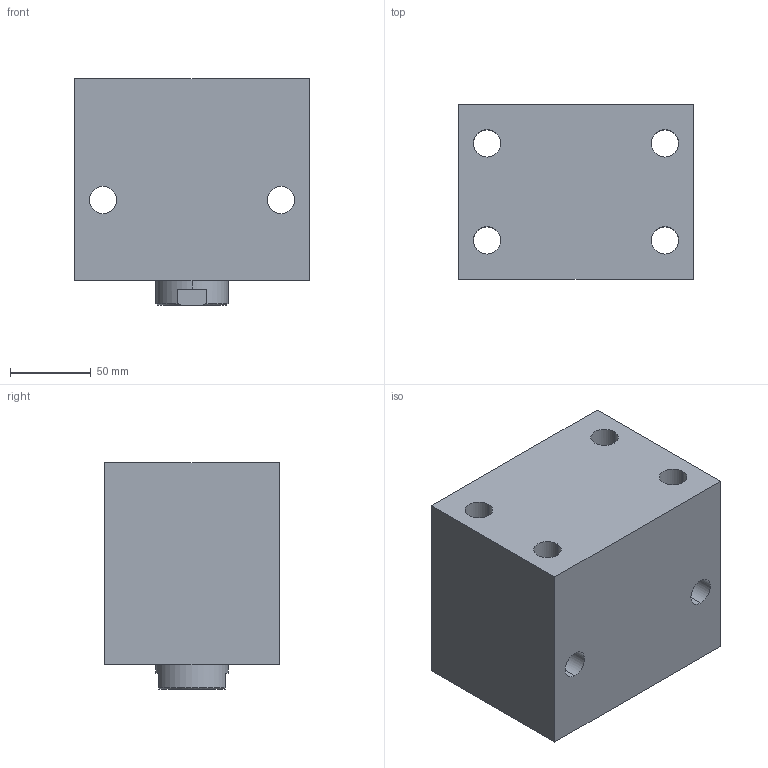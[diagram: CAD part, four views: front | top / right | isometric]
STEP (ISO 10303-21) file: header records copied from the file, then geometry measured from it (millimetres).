
FILE_DESCRIPTION (( 'STEP AP203' ), '1' );
FILE_NAME ('Block cylinder B01C-750F.STEP', '2022-07-09T18:36:11', ( '' ), ( '' ), 'SwSTEP 2.0', 'SolidWorks 2017', '' );
FILE_SCHEMA (( 'CONFIG_CONTROL_DESIGN' ));
Length unit declared in the file: millimetre
Products named in the file (3): Body_ 750F_50ST; Piston _750F; Block cylinder B01C-750F
Assembly tree (2 placements, depth 2):
  Block cylinder B01C-750F
    Body_ 750F_50ST
    Piston _750F
Bounding box: 145 x 108 x 140 mm (x, y, z)
Volume: 1918538.1 mm3; surface area: 160816.3 mm2
Topology: 2 solids, 2 shells, 341 faces, 933 edges, 609 vertices
Faces by surface type: bspline 148, plane 141, cylinder 44, cone 8
Entity records: 16980 total; most frequent: CARTESIAN_POINT 9110, ORIENTED_EDGE 1854, DIRECTION 1053, EDGE_CURVE 927, VERTEX_POINT 609, LINE 533, VECTOR 533, EDGE_LOOP 380
